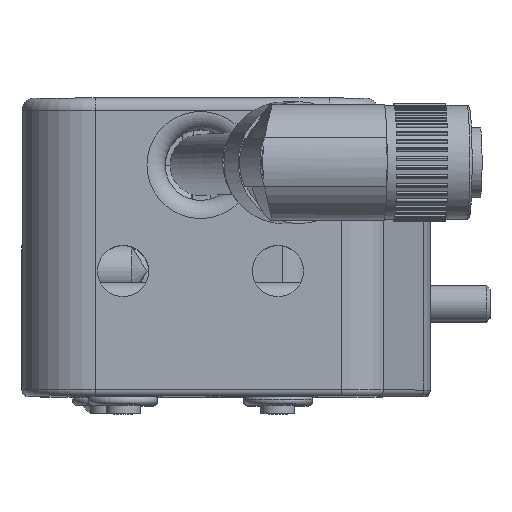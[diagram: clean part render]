
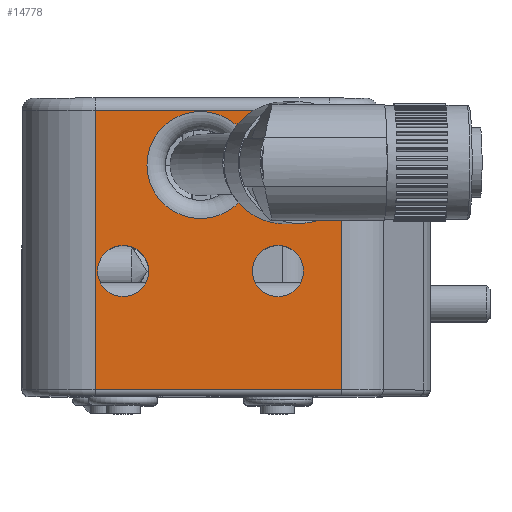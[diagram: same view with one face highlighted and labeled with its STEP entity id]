
A CAD part, top view. The second image highlights one B-rep face of the part: STEP entity #14778.
In plain terms, the highlighted planar face has unit normal (0, 0, 1).
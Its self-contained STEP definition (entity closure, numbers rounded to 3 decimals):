
#290=FACE_BOUND('',#1998,.T.);
#291=FACE_BOUND('',#1999,.T.);
#292=FACE_BOUND('',#2000,.T.);
#537=PLANE('',#16010);
#1130=FACE_OUTER_BOUND('',#1997,.T.);
#1997=EDGE_LOOP('',(#10981,#10982,#10983,#10984,#10985,#10986));
#1998=EDGE_LOOP('',(#10987,#10988));
#1999=EDGE_LOOP('',(#10989,#10990));
#2000=EDGE_LOOP('',(#10991,#10992));
#2947=LINE('',#23508,#4023);
#2949=LINE('',#23513,#4025);
#2960=LINE('',#23545,#4036);
#3036=LINE('',#24613,#4112);
#3054=LINE('',#24673,#4130);
#3055=LINE('',#24675,#4131);
#4023=VECTOR('',#18530,10.);
#4025=VECTOR('',#18536,10.);
#4036=VECTOR('',#18565,10.);
#4112=VECTOR('',#18909,10.);
#4130=VECTOR('',#18979,10.);
#4131=VECTOR('',#18982,10.);
#5047=CIRCLE('',#15938,2.1);
#5048=CIRCLE('',#15939,2.1);
#5051=CIRCLE('',#15944,2.1);
#5052=CIRCLE('',#15945,2.1);
#5090=CIRCLE('',#16011,4.4);
#5091=CIRCLE('',#16012,4.4);
#6091=VERTEX_POINT('',#23443);
#6110=VERTEX_POINT('',#23503);
#6111=VERTEX_POINT('',#23512);
#6123=VERTEX_POINT('',#23544);
#6211=VERTEX_POINT('',#24312);
#6212=VERTEX_POINT('',#24313);
#6219=VERTEX_POINT('',#24428);
#6220=VERTEX_POINT('',#24429);
#6246=VERTEX_POINT('',#24605);
#6248=VERTEX_POINT('',#24611);
#6265=VERTEX_POINT('',#24676);
#6266=VERTEX_POINT('',#24677);
#7764=EDGE_CURVE('',#6091,#6110,#2947,.T.);
#7766=EDGE_CURVE('',#6110,#6111,#2949,.T.);
#7782=EDGE_CURVE('',#6123,#6111,#2960,.T.);
#7905=EDGE_CURVE('',#6211,#6212,#5047,.T.);
#7906=EDGE_CURVE('',#6212,#6211,#5048,.T.);
#7915=EDGE_CURVE('',#6219,#6220,#5051,.T.);
#7916=EDGE_CURVE('',#6220,#6219,#5052,.T.);
#7959=EDGE_CURVE('',#6248,#6246,#3036,.T.);
#7991=EDGE_CURVE('',#6123,#6248,#3054,.T.);
#7992=EDGE_CURVE('',#6246,#6091,#3055,.T.);
#7993=EDGE_CURVE('',#6265,#6266,#5090,.T.);
#7994=EDGE_CURVE('',#6266,#6265,#5091,.T.);
#10981=ORIENTED_EDGE('',*,*,#7992,.F.);
#10982=ORIENTED_EDGE('',*,*,#7959,.F.);
#10983=ORIENTED_EDGE('',*,*,#7991,.F.);
#10984=ORIENTED_EDGE('',*,*,#7782,.T.);
#10985=ORIENTED_EDGE('',*,*,#7766,.F.);
#10986=ORIENTED_EDGE('',*,*,#7764,.F.);
#10987=ORIENTED_EDGE('',*,*,#7905,.T.);
#10988=ORIENTED_EDGE('',*,*,#7906,.T.);
#10989=ORIENTED_EDGE('',*,*,#7915,.T.);
#10990=ORIENTED_EDGE('',*,*,#7916,.T.);
#10991=ORIENTED_EDGE('',*,*,#7993,.F.);
#10992=ORIENTED_EDGE('',*,*,#7994,.F.);
#14778=ADVANCED_FACE('',(#1130,#290,#291,#292),#537,.T.);
#15938=AXIS2_PLACEMENT_3D('',#24314,#18798,#18799);
#15939=AXIS2_PLACEMENT_3D('',#24315,#18800,#18801);
#15944=AXIS2_PLACEMENT_3D('',#24430,#18813,#18814);
#15945=AXIS2_PLACEMENT_3D('',#24431,#18815,#18816);
#16010=AXIS2_PLACEMENT_3D('',#24674,#18980,#18981);
#16011=AXIS2_PLACEMENT_3D('',#24678,#18983,#18984);
#16012=AXIS2_PLACEMENT_3D('',#24679,#18985,#18986);
#18530=DIRECTION('',(1.,0.,0.));
#18536=DIRECTION('',(0.,-1.,0.));
#18565=DIRECTION('',(-1.,0.,0.));
#18798=DIRECTION('center_axis',(0.,0.,
-1.));
#18799=DIRECTION('ref_axis',(0.,1.,0.));
#18800=DIRECTION('center_axis',(0.,0.,
-1.));
#18801=DIRECTION('ref_axis',(0.,1.,0.));
#18813=DIRECTION('center_axis',(0.,0.,
-1.));
#18814=DIRECTION('ref_axis',(0.,1.,0.));
#18815=DIRECTION('center_axis',(0.,0.,
-1.));
#18816=DIRECTION('ref_axis',(0.,1.,0.));
#18909=DIRECTION('',(-1.,0.,0.));
#18979=DIRECTION('',(0.,-1.,0.));
#18980=DIRECTION('center_axis',(0.,0.,
1.));
#18981=DIRECTION('ref_axis',(0.,1.,0.));
#18982=DIRECTION('',(0.,1.,0.));
#18983=DIRECTION('center_axis',(0.,0.,
1.));
#18984=DIRECTION('ref_axis',(0.,-1.,0.));
#18985=DIRECTION('center_axis',(0.,0.,
1.));
#18986=DIRECTION('ref_axis',(0.,-1.,0.));
#23443=CARTESIAN_POINT('',(-13.05,28.6,26.));
#23503=CARTESIAN_POINT('',(6.15,28.6,26.));
#23508=CARTESIAN_POINT('',(-11.75,28.6,26.));
#23512=CARTESIAN_POINT('',(6.15,24.1,26.));
#23513=CARTESIAN_POINT('',(6.15,29.6,26.));
#23544=CARTESIAN_POINT('',(7.141,24.1,26.));
#23545=CARTESIAN_POINT('',(14.45,24.1,26.));
#24312=CARTESIAN_POINT('',(-10.75,17.5,26.));
#24313=CARTESIAN_POINT('',(-10.75,13.3,26.));
#24314=CARTESIAN_POINT('Origin',(-10.75,15.4,26.));
#24315=CARTESIAN_POINT('Origin',(-10.75,15.4,26.));
#24428=CARTESIAN_POINT('',(1.95,17.5,26.));
#24429=CARTESIAN_POINT('',(1.95,13.3,26.));
#24430=CARTESIAN_POINT('Origin',(1.95,15.4,26.));
#24431=CARTESIAN_POINT('Origin',(1.95,15.4,26.));
#24605=CARTESIAN_POINT('',(-13.05,5.65,26.));
#24611=CARTESIAN_POINT('',(7.141,5.65,26.));
#24613=CARTESIAN_POINT('',(-10.675,5.65,26.));
#24673=CARTESIAN_POINT('',(7.141,24.1,26.));
#24674=CARTESIAN_POINT('Origin',(-19.05,24.1,26.));
#24675=CARTESIAN_POINT('',(-13.05,24.1,26.));
#24676=CARTESIAN_POINT('',(-8.8,24.1,26.));
#24677=CARTESIAN_POINT('',(-4.4,28.5,26.));
#24678=CARTESIAN_POINT('Origin',(-4.4,24.1,26.));
#24679=CARTESIAN_POINT('Origin',(-4.4,24.1,26.));
